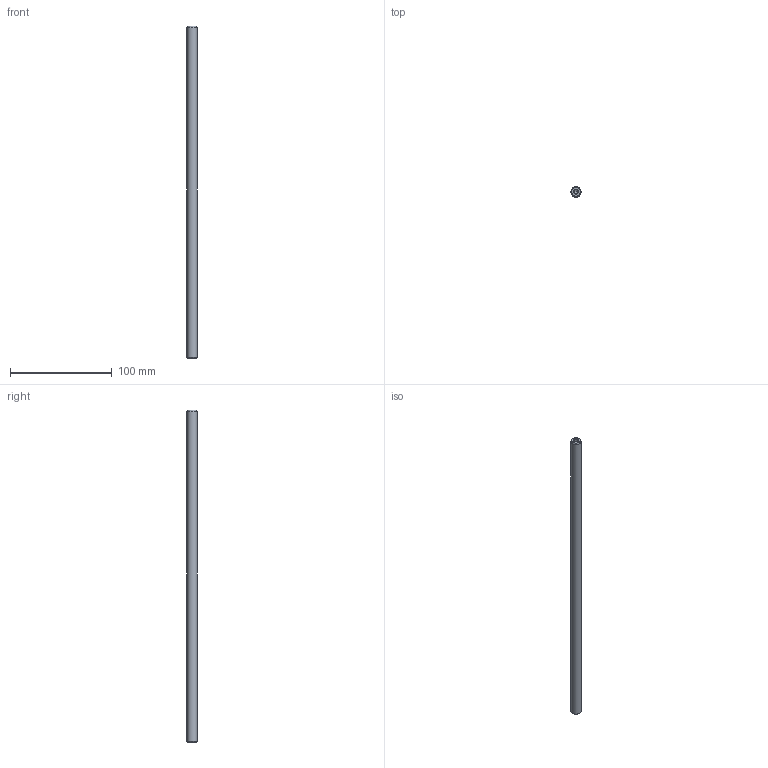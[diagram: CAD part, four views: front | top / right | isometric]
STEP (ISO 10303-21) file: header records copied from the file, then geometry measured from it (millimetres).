
FILE_DESCRIPTION( ( 'STEP AP214' ), '1' );
FILE_NAME( 'U:/Etudes/Top Solid/BIBLIO_Fournisseur/Colonnes UG/Ø10x327.step', '2005-01-11T13:26:50', ( ' ' ), ( ' ' ), 'XStep 1.0', ' ', ' ' );
FILE_SCHEMA( ( 'automotive_design' ) );
Length unit declared in the file: metre
Products named in the file (1): 1
Bounding box: 10 x 10 x 327 mm (x, y, z)
Volume: 25295.8 mm3; surface area: 10748.3 mm2
Topology: 1 solids, 1 shells, 13 faces, 27 edges, 16 vertices
Faces by surface type: cone 6, cylinder 5, plane 2
Full cylindrical faces by diameter (mm): 4.134 x4, 10 x1
Entity records: 382 total; most frequent: DIRECTION 52, CARTESIAN_POINT 40, AXIS2_PLACEMENT_3D 26, EDGE_LOOP 24, ORIENTED_EDGE 24, FACE_OUTER_BOUND 18, VERTEX_POINT 14, STYLED_ITEM 13
